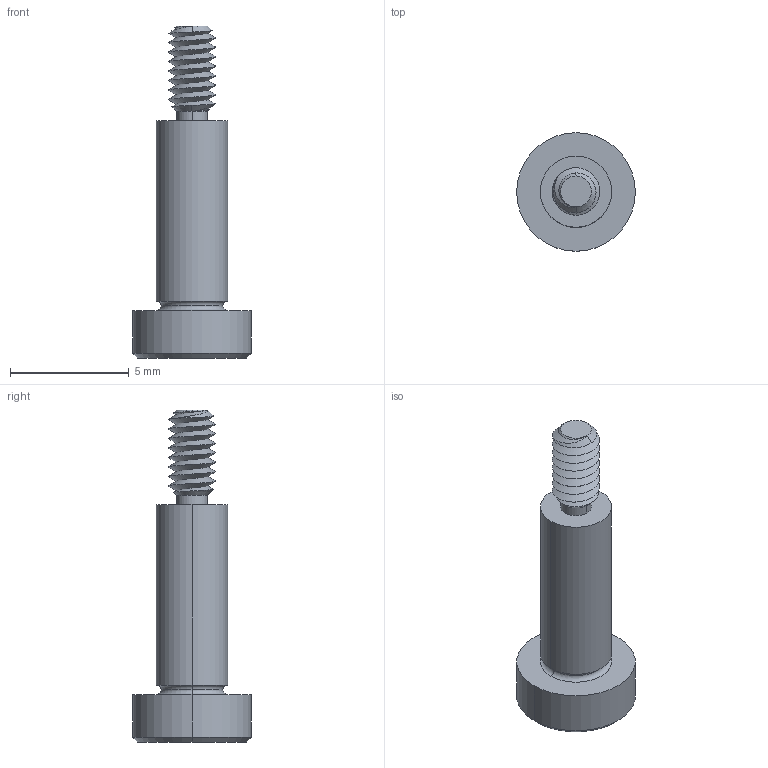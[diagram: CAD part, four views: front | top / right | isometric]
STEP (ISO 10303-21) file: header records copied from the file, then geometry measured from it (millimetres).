
FILE_DESCRIPTION (( 'STEP AP203' ), '1' );
FILE_NAME ('P0130.030-008-B2.step', '2021-11-09T20:55:23', ( '' ), ( '' ), 'SwSTEP 2.0', 'SolidWorks 2019', '' );
FILE_SCHEMA (( 'CONFIG_CONTROL_DESIGN' ));
Length unit declared in the file: millimetre
Products named in the file (1): P0130.030-008-B2
Bounding box: 5 x 5 x 14 mm (x, y, z)
Volume: 99.9 mm3; surface area: 191.5 mm2
Topology: 1 solids, 1 shells, 58 faces, 136 edges, 81 vertices
Faces by surface type: cylinder 22, plane 16, cone 14, torus 4, bspline 2
Entity records: 2452 total; most frequent: CARTESIAN_POINT 1166, ORIENTED_EDGE 268, DIRECTION 241, EDGE_CURVE 134, AXIS2_PLACEMENT_3D 97, VERTEX_POINT 81, EDGE_LOOP 61, ADVANCED_FACE 58
